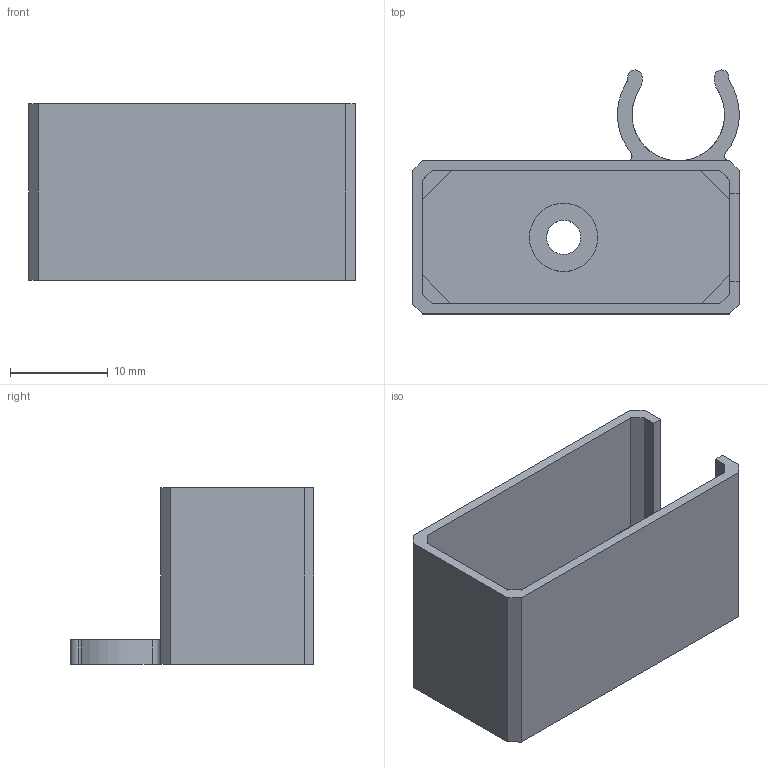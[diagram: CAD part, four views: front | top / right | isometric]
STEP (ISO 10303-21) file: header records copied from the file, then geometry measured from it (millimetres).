
FILE_DESCRIPTION((''),'2;1');
FILE_NAME('D:\Data\Documents\Studium\Faecher\10.Semester\Studienarbeit\Design\Verteilerdose.stp','2016-08-24T13:01:00',('Fabian'),(''),'Autodesk Inventor 2013','Autodesk Inventor 2013','');
FILE_SCHEMA(('AUTOMOTIVE_DESIGN { 1 0 10303 214 1 1 1 1 }'));
Length unit declared in the file: millimetre
Products named in the file (1): Verteilerdose
Bounding box: 33.48 x 25.02 x 18.1 mm (x, y, z)
Volume: 2775.6 mm3; surface area: 4204.6 mm2
Topology: 1 solids, 1 shells, 53 faces, 146 edges, 97 vertices
Faces by surface type: plane 40, cylinder 13
Full cylindrical faces by diameter (mm): 3.5 x1, 7 x1
Entity records: 1699 total; most frequent: CARTESIAN_POINT 295, ORIENTED_EDGE 288, DIRECTION 279, EDGE_CURVE 144, VECTOR 117, LINE 117, VERTEX_POINT 97, AXIS2_PLACEMENT_3D 81
